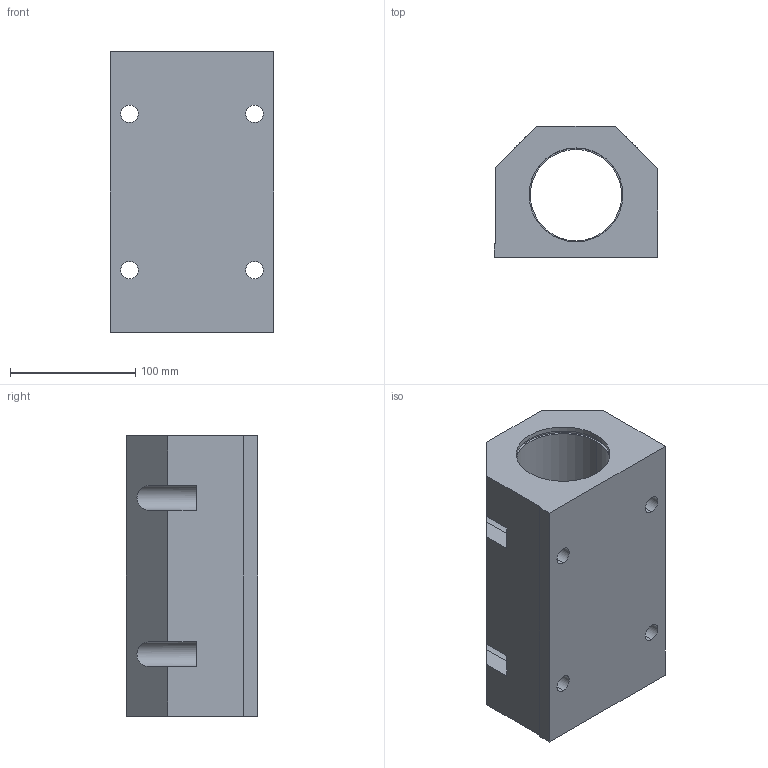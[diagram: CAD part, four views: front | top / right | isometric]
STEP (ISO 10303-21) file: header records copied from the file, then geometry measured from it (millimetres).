
FILE_DESCRIPTION (( 'STEP AP214' ), '1' );
FILE_NAME ('KTG85-I-50.step', '2020-03-04T13:31:14', ( '' ), ( '' ), 'SwSTEP 2.0', 'SolidWorks 2019', '' );
FILE_SCHEMA (( 'AUTOMOTIVE_DESIGN' ));
Length unit declared in the file: millimetre
Products named in the file (1): KTG85-I-50
Bounding box: 131 x 105 x 224 mm (x, y, z)
Volume: 1725954.4 mm3; surface area: 182719.3 mm2
Topology: 1 solids, 1 shells, 60 faces, 152 edges, 100 vertices
Faces by surface type: cylinder 30, plane 28, cone 2
Entity records: 2046 total; most frequent: CARTESIAN_POINT 389, DIRECTION 322, ORIENTED_EDGE 304, EDGE_CURVE 152, AXIS2_PLACEMENT_3D 115, VERTEX_POINT 100, LINE 92, VECTOR 92
